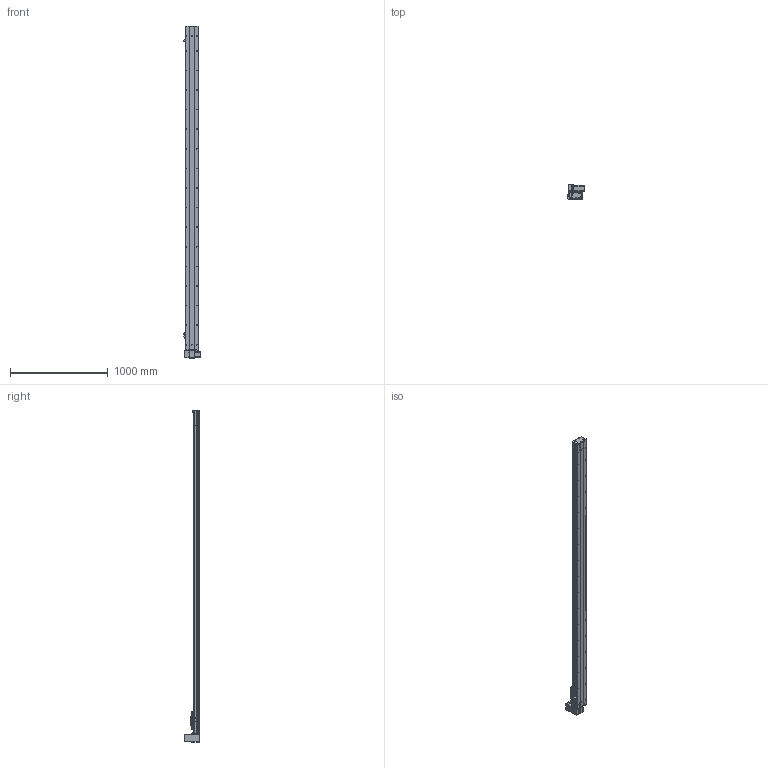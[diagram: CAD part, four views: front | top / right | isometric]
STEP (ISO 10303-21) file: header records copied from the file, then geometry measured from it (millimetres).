
FILE_DESCRIPTION (( 'STEP AP203' ), '1' );
FILE_NAME ('Y135CB-D90-S3000-UR-P400W.STEP', '2020-02-18T06:50:03', ( '微软用户' ), ( '微软中国' ), 'SwSTEP 2.0', 'SolidWorks 2017', '' );
FILE_SCHEMA (( 'CONFIG_CONTROL_DESIGN' ));
Length unit declared in the file: millimetre
Products named in the file (18): C-雄赽釱--; 0B-萇儂楊擘啣; Y10B--々湍喘謫眊--666; san松下电机400不带刹车----; Y10B-耜蚾蟀諉啣----; 5CB --掛极耜裔啣-; 00B-俋欶BM--; C-詩湍揤踡え-陔; Y135CB-耜裔; Y135CB-D90-S3000-UR-P400W; 135CB--詩湍-CE; 135CB---遴掛极.-; Y100-135俋离換覜ん--; 35CB---喘謫眊楊擘啣; Y135C-陔俋离換覜結え-; 0B-埴倛裔啣; 5C--俋欶; 0B-源倛裔啣
Assembly tree (21 placements, depth 2):
  Y135CB-D90-S3000-UR-P400W
    Y135CB-耜裔
    135CB---遴掛极.-
    35CB---喘謫眊楊擘啣
    0B-埴倛裔啣
    0B-源倛裔啣
    0B-萇儂楊擘啣
    san松下电机400不带刹车----
    5CB --掛极耜裔啣-  x2
    C-詩湍揤踡え-陔  x2
    135CB--詩湍-CE
    Y100-135俋离換覜ん--  x3
    Y135C-陔俋离換覜結え-
    5C--俋欶
    C-雄赽釱--
    Y10B--々湍喘謫眊--666
    Y10B-耜蚾蟀諉啣----
    00B-俋欶BM--
Bounding box: 167.5 x 158.7 x 3388 mm (x, y, z)
Volume: 9580275.2 mm3; surface area: 3801264.5 mm2
Topology: 21 solids, 21 shells, 985 faces, 2707 edges, 1794 vertices
Faces by surface type: cylinder 513, plane 456, cone 16
Entity records: 31369 total; most frequent: CARTESIAN_POINT 5252, DIRECTION 5215, ORIENTED_EDGE 4890, EDGE_CURVE 2445, AXIS2_PLACEMENT_3D 1917, VERTEX_POINT 1622, VECTOR 1381, LINE 1381
